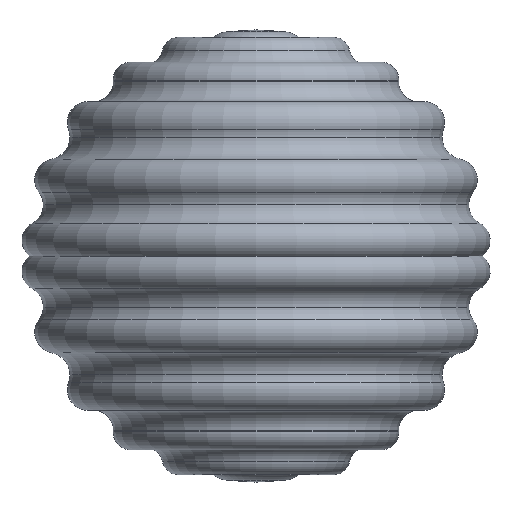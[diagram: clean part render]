
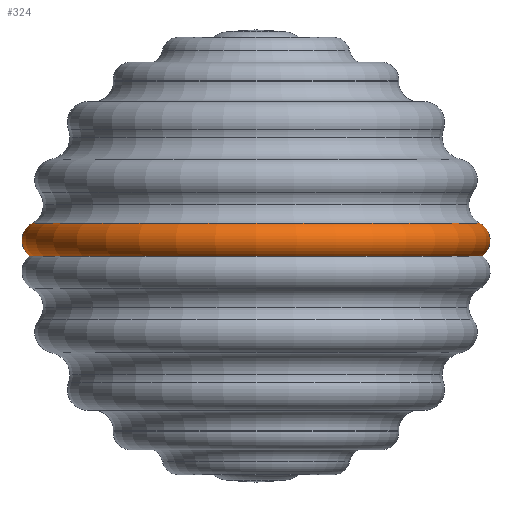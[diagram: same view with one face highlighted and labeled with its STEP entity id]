
A CAD part, front view. The second image highlights one B-rep face of the part: STEP entity #324.
In plain terms, the highlighted toroidal (fillet/blend) face has major radius 66.447 mm and minor radius 6.012 mm.
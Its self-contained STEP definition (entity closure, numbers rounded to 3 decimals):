
#17 = DIRECTION ( 'NONE',  ( 0., 0., 1. ) ) ;
#39 = CIRCLE ( 'NONE', #235, 69.258 ) ;
#104 = CARTESIAN_POINT ( 'NONE',  ( -66.447, 0., -65.149 ) ) ;
#120 = DIRECTION ( 'NONE',  ( 1., 0., 0. ) ) ;
#135 = CARTESIAN_POINT ( 'NONE',  ( 0., 0., -59.834 ) ) ;
#140 = ORIENTED_EDGE ( 'NONE', *, *, #936, .T. ) ;
#155 = CARTESIAN_POINT ( 'NONE',  ( 0., 0., -65.149 ) ) ;
#176 = AXIS2_PLACEMENT_3D ( 'NONE', #155, #407, #1025 ) ;
#234 = VERTEX_POINT ( 'NONE', #1470 ) ;
#235 = AXIS2_PLACEMENT_3D ( 'NONE', #135, #736, #973 ) ;
#247 = TOROIDAL_SURFACE ( 'NONE', #176, 66.447, 6.012 ) ;
#260 = EDGE_CURVE ( 'NONE', #761, #885, #1056, .T. ) ;
#324 = ADVANCED_FACE ( 'NONE', ( #1255 ), #247, .T. ) ;
#407 = DIRECTION ( 'NONE',  ( 0., 0., 1. ) ) ;
#435 = ORIENTED_EDGE ( 'NONE', *, *, #1571, .F. ) ;
#588 = ORIENTED_EDGE ( 'NONE', *, *, #615, .F. ) ;
#615 = EDGE_CURVE ( 'NONE', #761, #1544, #1024, .T. ) ;
#729 = CARTESIAN_POINT ( 'NONE',  ( 0., 0., -70. ) ) ;
#736 = DIRECTION ( 'NONE',  ( 0., 0., 1. ) ) ;
#739 = AXIS2_PLACEMENT_3D ( 'NONE', #1044, #796, #906 ) ;
#761 = VERTEX_POINT ( 'NONE', #1234 ) ;
#796 = DIRECTION ( 'NONE',  ( 0., -1., 0. ) ) ;
#831 = CIRCLE ( 'NONE', #739, 6.012 ) ;
#842 = ORIENTED_EDGE ( 'NONE', *, *, #260, .T. ) ;
#857 = CARTESIAN_POINT ( 'NONE',  ( -69.258, 0., -59.834 ) ) ;
#885 = VERTEX_POINT ( 'NONE', #1278 ) ;
#906 = DIRECTION ( 'NONE',  ( 0., 0., -1. ) ) ;
#936 = EDGE_CURVE ( 'NONE', #885, #234, #831, .T. ) ;
#937 = AXIS2_PLACEMENT_3D ( 'NONE', #104, #1540, #1050 ) ;
#973 = DIRECTION ( 'NONE',  ( 1., 0., 0. ) ) ;
#1024 = CIRCLE ( 'NONE', #937, 6.012 ) ;
#1025 = DIRECTION ( 'NONE',  ( 1., 0., 0. ) ) ;
#1044 = CARTESIAN_POINT ( 'NONE',  ( 66.447, 0., -65.149 ) ) ;
#1050 = DIRECTION ( 'NONE',  ( -1., 0., 0. ) ) ;
#1056 = CIRCLE ( 'NONE', #1398, 70. ) ;
#1234 = CARTESIAN_POINT ( 'NONE',  ( -70., 0., -70. ) ) ;
#1255 = FACE_OUTER_BOUND ( 'NONE', #1400, .T. ) ;
#1278 = CARTESIAN_POINT ( 'NONE',  ( 70., 0., -70. ) ) ;
#1398 = AXIS2_PLACEMENT_3D ( 'NONE', #729, #17, #120 ) ;
#1400 = EDGE_LOOP ( 'NONE', ( #588, #842, #140, #435 ) ) ;
#1470 = CARTESIAN_POINT ( 'NONE',  ( 69.258, 0., -59.834 ) ) ;
#1540 = DIRECTION ( 'NONE',  ( 0., 1., 0. ) ) ;
#1544 = VERTEX_POINT ( 'NONE', #857 ) ;
#1571 = EDGE_CURVE ( 'NONE', #1544, #234, #39, .T. ) ;
